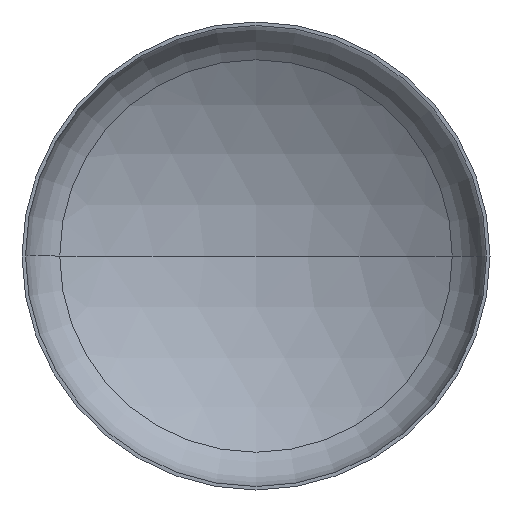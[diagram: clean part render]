
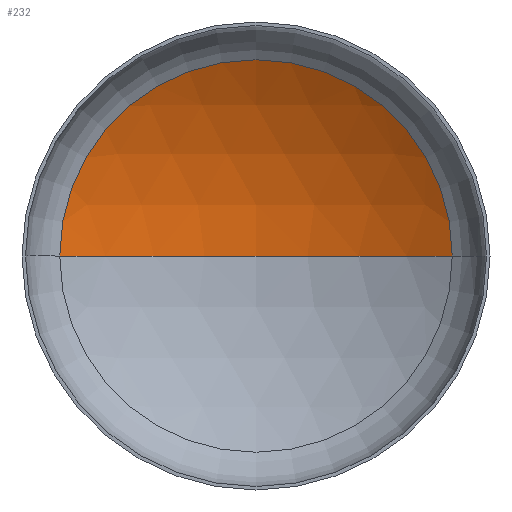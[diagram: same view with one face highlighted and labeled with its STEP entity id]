
A CAD part, front view. The second image highlights one B-rep face of the part: STEP entity #232.
In plain terms, the highlighted spherical face has radius 3200 mm.
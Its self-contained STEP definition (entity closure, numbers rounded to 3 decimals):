
#1 = ORIENTED_EDGE ( 'NONE', *, *, #150, .F. ) ;
#5 = DIRECTION ( 'NONE',  ( 1., 0., 0. ) ) ;
#10 = EDGE_LOOP ( 'NONE', ( #1, #124, #86 ) ) ;
#52 = AXIS2_PLACEMENT_3D ( 'NONE', #89, #56, #187 ) ;
#56 = DIRECTION ( 'NONE',  ( 0., 0., -1. ) ) ;
#59 = VERTEX_POINT ( 'NONE', #290 ) ;
#77 = VERTEX_POINT ( 'NONE', #255 ) ;
#79 = VERTEX_POINT ( 'NONE', #235 ) ;
#83 = AXIS2_PLACEMENT_3D ( 'NONE', #243, #391, #5 ) ;
#86 = ORIENTED_EDGE ( 'NONE', *, *, #142, .T. ) ;
#89 = CARTESIAN_POINT ( 'NONE',  ( 0., -2111.409, 0. ) ) ;
#92 = AXIS2_PLACEMENT_3D ( 'NONE', #231, #225, #228 ) ;
#98 = AXIS2_PLACEMENT_3D ( 'NONE', #200, #203, #305 ) ;
#121 = CIRCLE ( 'NONE', #98, 1677.369 ) ;
#124 = ORIENTED_EDGE ( 'NONE', *, *, #145, .T. ) ;
#142 = EDGE_CURVE ( 'NONE', #59, #79, #121, .T. ) ;
#145 = EDGE_CURVE ( 'NONE', #77, #59, #323, .T. ) ;
#150 = EDGE_CURVE ( 'NONE', #77, #79, #272, .T. ) ;
#187 = DIRECTION ( 'NONE',  ( -1., 0., 0. ) ) ;
#191 = SPHERICAL_SURFACE ( 'NONE', #52, 3200. ) ;
#200 = CARTESIAN_POINT ( 'NONE',  ( 0., 613.739, 0. ) ) ;
#203 = DIRECTION ( 'NONE',  ( 0., -1., 0. ) ) ;
#225 = DIRECTION ( 'NONE',  ( 0., 0., -1. ) ) ;
#228 = DIRECTION ( 'NONE',  ( -1., 0., 0. ) ) ;
#231 = CARTESIAN_POINT ( 'NONE',  ( 0., -2111.409, 0. ) ) ;
#232 = ADVANCED_FACE ( 'NONE', ( #364 ), #191, .F. ) ;
#235 = CARTESIAN_POINT ( 'NONE',  ( -1677.369, 613.739, 0. ) ) ;
#243 = CARTESIAN_POINT ( 'NONE',  ( 0., -2111.409, 0. ) ) ;
#255 = CARTESIAN_POINT ( 'NONE',  ( 0., 1088.591, 0. ) ) ;
#272 = CIRCLE ( 'NONE', #83, 3200. ) ;
#290 = CARTESIAN_POINT ( 'NONE',  ( 1677.369, 613.739, 0. ) ) ;
#305 = DIRECTION ( 'NONE',  ( 1., 0., 0. ) ) ;
#323 = CIRCLE ( 'NONE', #92, 3200. ) ;
#364 = FACE_OUTER_BOUND ( 'NONE', #10, .T. ) ;
#391 = DIRECTION ( 'NONE',  ( 0., 0., 1. ) ) ;
